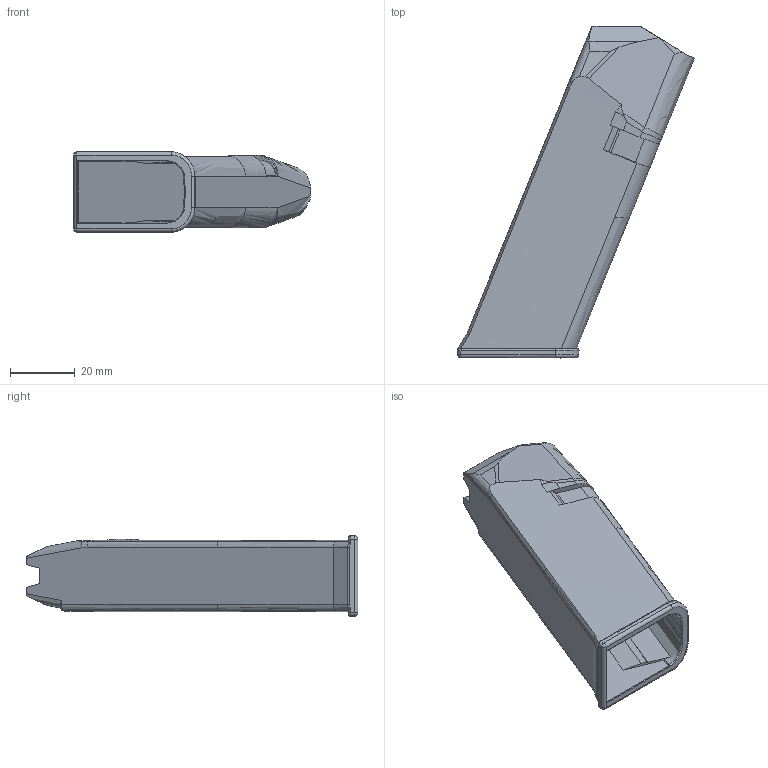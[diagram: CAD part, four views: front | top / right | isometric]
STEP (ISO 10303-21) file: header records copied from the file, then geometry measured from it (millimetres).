
FILE_DESCRIPTION(/* description */ (''),/* implementation_level */ '2;1');
FILE_NAME(/* name */ 'E:\MenMag v2.0\Menendez Magazine Pack v2.0\STEP\Mag Body - Baby Menendez (15 Round).stp',/* time_stamp */ '2021-03-23T13:07:15-05:00',/* author */ ('johne'),/* organization */ (''),/* preprocessor_version */ 'ST-DEVELOPER v18',/* originating_system */ 'Autodesk Inventor 2020',/* authorisation */ '');
FILE_SCHEMA (('AUTOMOTIVE_DESIGN { 1 0 10303 214 3 1 1 }'));
Length unit declared in the file: inch
Products named in the file (1): Mag Body - Baby Menendez (15 Round)
Bounding box: 73.28 x 102.8 x 24.87 mm (x, y, z)
Volume: 18959.3 mm3; surface area: 21592.1 mm2
Topology: 1 solids, 9 shells, 226 faces, 579 edges, 364 vertices
Faces by surface type: plane 96, bspline 78, cylinder 50, cone 2
Entity records: 9318 total; most frequent: CARTESIAN_POINT 4083, ORIENTED_EDGE 1146, DIRECTION 932, EDGE_CURVE 573, VERTEX_POINT 364, AXIS2_PLACEMENT_3D 318, LINE 296, VECTOR 296
